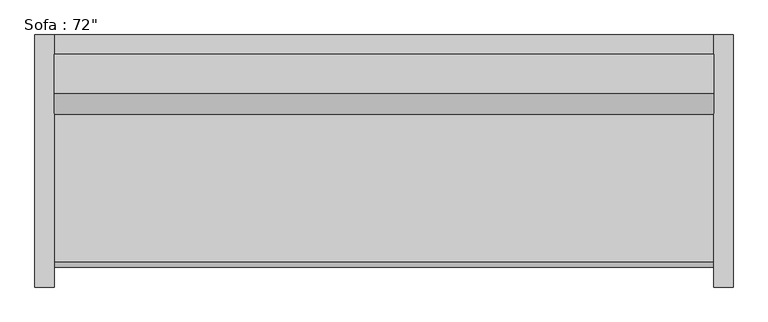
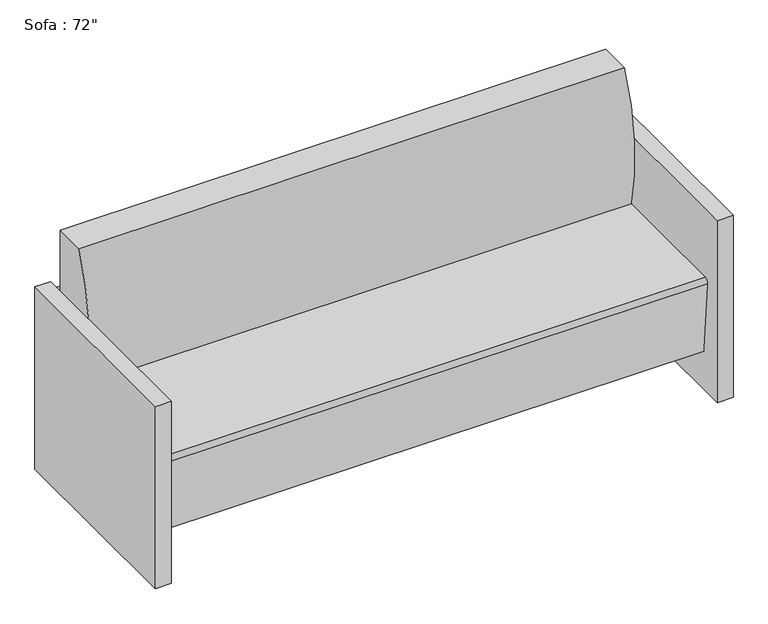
"""IFC4 building model written with IfcOpenShell, lengths in millimetres: furniture geometry."""

from ifc_helpers import new_model, si_unit, point, frame, frame_2d, origin, origin_with_axes, place, context, project, spatial, polyline, circle_curve, trimmed, segment, composite_curve, outline, extrude, source, transform, mapped, element, save


def furniture_a4ffab56(model_context):
    return source(origin(), model_context, "Body", "SweptSolid", [
        extrude(outline(polyline([(-793.2295082, 425.5540984), (-793.2295082, 476.3540984), (933.9704918, 476.3540984), (933.9704918, 425.5540984), (-793.2295082, 425.5540984)])), frame((0.0, 0.0, 457.2), z_axis=(0.0, 0.0, 1.0), x_axis=(1.0, 0.0, 0.0)), (0.0, 0.0, 1.0), 127.0),
        extrude(outline(polyline([(-793.2295082, 425.5540984), (-793.2295082, 476.3540984), (933.9704918, 476.3540984), (933.9704918, 425.5540984), (-793.2295082, 425.5540984)])), frame((0.0, 0.0, 266.7), z_axis=(0.0, 0.0, 1.0), x_axis=(1.0, 0.0, 0.0)), (0.0, 0.0, 1.0), 127.0),
        extrude(outline(polyline([(-793.2295082, 425.5540984), (-793.2295082, 476.3540984), (933.9704918, 476.3540984), (933.9704918, 425.5540984), (-793.2295082, 425.5540984)])), frame((0.0, 0.0, 76.2), z_axis=(0.0, 0.0, 1.0), x_axis=(1.0, 0.0, 0.0)), (0.0, 0.0, 1.0), 127.0),
        extrude(outline(composite_curve([segment(trimmed(circle_curve(frame_2d((926.517198, 542.5300036)), 660.4), [point((286.1764935, 381.0))], [point((323.9540984, 812.8))], False, "CARTESIAN"), True, "CONTINUOUS"), segment(polyline([(323.9540984, 812.8), (425.5540984, 812.8), (425.5540984, 127.9665467), (-111.108343, 127.9665467), (-132.0379563, 367.1931221)]), True, "CONTINUOUS"), segment(trimmed(circle_curve(frame_2d((-119.3862837, 368.3)), 12.7), [point((-132.0379563, 367.1931221))], [point((-119.3862837, 381.0))], False, "CARTESIAN"), True, "CONTINUOUS"), segment(polyline([(-119.3862837, 381.0), (286.1764935, 381.0)]), True, "CONTINUOUS")], self_intersect=False)), frame((-793.2295082, 0.0, 0.0), z_axis=(1.0, 0.0, 0.0), x_axis=(0.0, 1.0, 0.0)), (0.0, 0.0, 1.0), 1727.2),
        extrude(outline(polyline([(-844.0295082, 476.3540984), (-793.2295082, 476.3540984), (-793.2295082, -184.0459016), (-844.0295082, -184.0459016), (-844.0295082, 476.3540984)])), origin_with_axes(), (0.0, 0.0, 1.0), 609.6),
        extrude(outline(polyline([(984.7704918, 476.3540984), (984.7704918, -184.0459016), (933.9704918, -184.0459016), (933.9704918, 476.3540984), (984.7704918, 476.3540984)])), origin_with_axes(), (0.0, 0.0, 1.0), 609.6),
    ])


if __name__ == "__main__":
    model = new_model("IFC4")
    model_context = context("Model", 3, world=origin())
    ifc_project = project(units=[si_unit("LENGTHUNIT", "METRE", prefix="MILLI")], contexts=[model_context])
    site = spatial("IfcSite", under=ifc_project)
    building = spatial("IfcBuilding", under=site)
    placement = place(None, origin())
    furniture_shape = furniture_a4ffab56(model_context)
    element("IfcFurniture", 1, ObjectType="Sofa : 72\"", at=placement, inside=building, context=model_context, shape_type="MappedRepresentation", body=[
        mapped(furniture_shape, transform((0.0, 0.0, 0.0), x_axis=(1.0, 0.0, 0.0), y_axis=(0.0, 1.0, 0.0), z_axis=(0.0, 0.0, 1.0))),
    ])
    save(model, "model.ifc")
